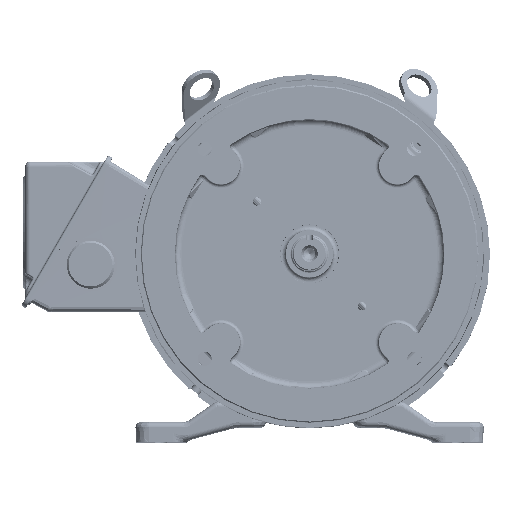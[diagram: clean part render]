
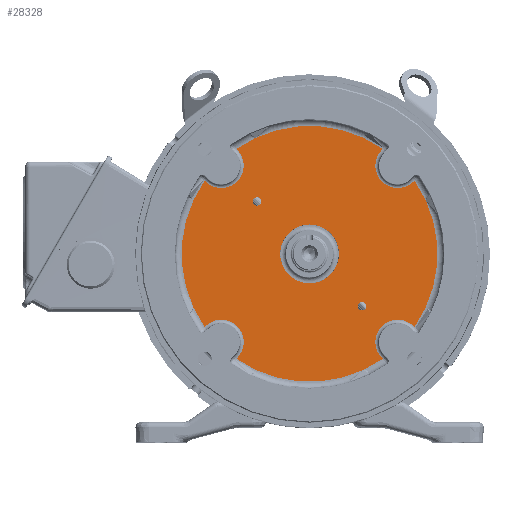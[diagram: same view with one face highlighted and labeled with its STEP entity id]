
A CAD part, top view. The second image highlights one B-rep face of the part: STEP entity #28328.
In plain terms, the highlighted planar face has unit normal (0, 0, 1) as drawn and (0, 0, -1) by its records, which use the part's own axes.
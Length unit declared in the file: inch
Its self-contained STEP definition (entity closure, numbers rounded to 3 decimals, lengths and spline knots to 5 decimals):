
#16629=CARTESIAN_POINT('',(-2.71564,-3.88906,
-0.59));
#16636=CARTESIAN_POINT('',(0.,0.,-0.59));
#16637=DIRECTION('',(0.,0.,-1.));
#16638=DIRECTION('',(0.82,0.573,0.));
#16639=AXIS2_PLACEMENT_3D('',#16636,#16637,#16638);
#16641=CARTESIAN_POINT('',(0.,0.,-0.59));
#16642=DIRECTION('',(0.,0.,-1.));
#16643=DIRECTION('',(0.573,-0.82,0.));
#16644=AXIS2_PLACEMENT_3D('',#16641,#16642,#16643);
#16651=CARTESIAN_POINT('',(0.,0.,-0.59));
#16652=DIRECTION('',(0.,0.,-1.));
#16653=DIRECTION('',(-0.82,-0.573,0.));
#16654=AXIS2_PLACEMENT_3D('',#16651,#16652,#16653);
#16666=CARTESIAN_POINT('',(0.,0.,-0.59));
#16667=DIRECTION('',(0.,0.,-1.));
#16668=DIRECTION('',(-0.573,0.82,0.));
#16669=AXIS2_PLACEMENT_3D('',#16666,#16667,#16668);
#16694=CARTESIAN_POINT('',(3.88906,-2.71564,
-0.59));
#16734=DIRECTION('',(-0.707,0.707,0.));
#16735=VECTOR('',#16734,0.04523);
#16736=CARTESIAN_POINT('',(3.88906,-2.71564,
-0.59));
#16737=LINE('',#16736,#16735);
#16738=CARTESIAN_POINT('',(0.,0.,-0.59));
#16739=DIRECTION('',(0.,0.,1.));
#16740=DIRECTION('',(0.,1.,0.));
#16741=AXIS2_PLACEMENT_3D('',#16738,#16739,#16740);
#16743=CARTESIAN_POINT('',(0.,0.,-0.59));
#16744=DIRECTION('',(0.,0.,1.));
#16745=DIRECTION('',(0.,-1.,0.));
#16746=AXIS2_PLACEMENT_3D('',#16743,#16744,#16745);
#16748=CARTESIAN_POINT('',(1.94454,1.94454,-0.59));
#16749=DIRECTION('',(0.,0.,-1.));
#16750=DIRECTION('',(-1.,0.,0.));
#16751=AXIS2_PLACEMENT_3D('',#16748,#16749,#16750);
#16753=CARTESIAN_POINT('',(1.94454,1.94454,-0.59));
#16754=DIRECTION('',(0.,0.,-1.));
#16755=DIRECTION('',(1.,0.,0.));
#16756=AXIS2_PLACEMENT_3D('',#16753,#16754,#16755);
#16758=CARTESIAN_POINT('',(-1.94454,-1.94454,-0.59));
#16759=DIRECTION('',(0.,0.,-1.));
#16760=DIRECTION('',(-1.,0.,0.));
#16761=AXIS2_PLACEMENT_3D('',#16758,#16759,#16760);
#16763=CARTESIAN_POINT('',(-1.94454,-1.94454,-0.59));
#16764=DIRECTION('',(0.,0.,-1.));
#16765=DIRECTION('',(1.,0.,0.));
#16766=AXIS2_PLACEMENT_3D('',#16763,#16764,#16765);
#16777=DIRECTION('',(0.707,0.707,0.));
#16778=VECTOR('',#16777,0.04523);
#16779=CARTESIAN_POINT('',(3.85708,2.68366,-0.59));
#16780=LINE('',#16779,#16778);
#16841=CARTESIAN_POINT('',(2.71564,3.88906,
-0.59));
#16852=DIRECTION('',(-0.707,-0.707,0.));
#16853=VECTOR('',#16852,0.04523);
#16854=CARTESIAN_POINT('',(2.71564,3.88906,
-0.59));
#16855=LINE('',#16854,#16853);
#16866=CARTESIAN_POINT('',(3.27037,3.27037,
-0.59));
#16867=DIRECTION('',(0.,0.,1.));
#16868=DIRECTION('',(-0.707,0.707,0.));
#16869=AXIS2_PLACEMENT_3D('',#16866,#16867,#16868);
#16931=DIRECTION('',(-0.707,0.707,0.));
#16932=VECTOR('',#16931,0.04523);
#16933=CARTESIAN_POINT('',(-2.68366,3.85708,-0.59));
#16934=LINE('',#16933,#16932);
#16995=CARTESIAN_POINT('',(-3.88906,2.71564,
-0.59));
#17006=DIRECTION('',(0.707,-0.707,0.));
#17007=VECTOR('',#17006,0.04523);
#17008=CARTESIAN_POINT('',(-3.88906,2.71564,
-0.59));
#17009=LINE('',#17008,#17007);
#17020=CARTESIAN_POINT('',(-3.27037,3.27037,
-0.59));
#17021=DIRECTION('',(0.,0.,1.));
#17022=DIRECTION('',(-0.707,-0.707,0.));
#17023=AXIS2_PLACEMENT_3D('',#17020,#17021,#17022);
#17085=DIRECTION('',(-0.707,-0.707,0.));
#17086=VECTOR('',#17085,0.04523);
#17087=CARTESIAN_POINT('',(-3.85708,-2.68366,-0.59));
#17088=LINE('',#17087,#17086);
#17099=CARTESIAN_POINT('',(-3.27037,-3.27037,
-0.59));
#17100=DIRECTION('',(0.,0.,1.));
#17101=DIRECTION('',(0.707,-0.707,0.));
#17102=AXIS2_PLACEMENT_3D('',#17099,#17100,#17101);
#17113=DIRECTION('',(0.707,0.707,0.));
#17114=VECTOR('',#17113,0.04523);
#17115=CARTESIAN_POINT('',(-2.71564,-3.88906,
-0.59));
#17116=LINE('',#17115,#17114);
#17151=DIRECTION('',(0.707,-0.707,0.));
#17152=VECTOR('',#17151,0.04523);
#17153=CARTESIAN_POINT('',(2.68366,-3.85708,-0.59));
#17154=LINE('',#17153,#17152);
#17173=CARTESIAN_POINT('',(3.27037,-3.27037,
-0.59));
#17174=DIRECTION('',(0.,0.,1.));
#17175=DIRECTION('',(0.707,0.707,0.));
#17176=AXIS2_PLACEMENT_3D('',#17173,#17174,#17175);
#22875=VERTEX_POINT('',#16694);
#22878=CARTESIAN_POINT('',(3.85708,-2.68366,-0.59));
#22879=VERTEX_POINT('',#22878);
#22882=CARTESIAN_POINT('',(2.68366,-3.85708,
-0.59));
#22883=VERTEX_POINT('',#22882);
#22886=CARTESIAN_POINT('',(2.71564,-3.88906,-0.59));
#22887=VERTEX_POINT('',#22886);
#22893=VERTEX_POINT('',#16629);
#22896=CARTESIAN_POINT('',(-2.68366,-3.85708,-0.59));
#22897=VERTEX_POINT('',#22896);
#22900=CARTESIAN_POINT('',(-3.85708,-2.68366,
-0.59));
#22901=VERTEX_POINT('',#22900);
#22904=CARTESIAN_POINT('',(-3.88906,-2.71564,
-0.59));
#22905=VERTEX_POINT('',#22904);
#22911=VERTEX_POINT('',#16841);
#22914=CARTESIAN_POINT('',(2.68366,3.85708,-0.59));
#22915=VERTEX_POINT('',#22914);
#22918=CARTESIAN_POINT('',(3.85708,2.68366,
-0.59));
#22919=VERTEX_POINT('',#22918);
#22922=CARTESIAN_POINT('',(3.88906,2.71564,-0.59));
#22923=VERTEX_POINT('',#22922);
#22929=VERTEX_POINT('',#16995);
#22932=CARTESIAN_POINT('',(-3.85708,2.68366,-0.59));
#22933=VERTEX_POINT('',#22932);
#22936=CARTESIAN_POINT('',(-2.68366,3.85708,
-0.59));
#22937=VERTEX_POINT('',#22936);
#22940=CARTESIAN_POINT('',(-2.71564,3.88906,-0.59));
#22941=VERTEX_POINT('',#22940);
#23389=CARTESIAN_POINT('',(0.,1.0895,-0.59));
#23390=CARTESIAN_POINT('',(0.,-1.0895,-0.59));
#23391=VERTEX_POINT('',#23389);
#23392=VERTEX_POINT('',#23390);
#23512=CARTESIAN_POINT('',(1.78804,1.94454,-0.59));
#23513=CARTESIAN_POINT('',(2.10104,1.94454,-0.59));
#23514=VERTEX_POINT('',#23512);
#23515=VERTEX_POINT('',#23513);
#23520=CARTESIAN_POINT('',(-2.10104,-1.94454,-0.59));
#23521=CARTESIAN_POINT('',(-1.78804,-1.94454,-0.59));
#23522=VERTEX_POINT('',#23520);
#23523=VERTEX_POINT('',#23521);
#28276=CARTESIAN_POINT('',(0.,0.,-0.59));
#28277=DIRECTION('',(0.,0.,1.));
#28278=DIRECTION('',(0.,1.,0.));
#28279=AXIS2_PLACEMENT_3D('',#28276,#28277,#28278);
#28280=PLANE('',#28279);
#28281=ORIENTED_EDGE('',*,*,#28269,.F.);
#28282=ORIENTED_EDGE('',*,*,#28122,.F.);
#28284=ORIENTED_EDGE('',*,*,#28283,.F.);
#28286=ORIENTED_EDGE('',*,*,#28285,.F.);
#28288=ORIENTED_EDGE('',*,*,#28287,.F.);
#28289=ORIENTED_EDGE('',*,*,#28166,.F.);
#28291=ORIENTED_EDGE('',*,*,#28290,.F.);
#28293=ORIENTED_EDGE('',*,*,#28292,.F.);
#28295=ORIENTED_EDGE('',*,*,#28294,.F.);
#28296=ORIENTED_EDGE('',*,*,#28148,.F.);
#28298=ORIENTED_EDGE('',*,*,#28297,.F.);
#28300=ORIENTED_EDGE('',*,*,#28299,.F.);
#28302=ORIENTED_EDGE('',*,*,#28301,.F.);
#28303=ORIENTED_EDGE('',*,*,#28134,.F.);
#28305=ORIENTED_EDGE('',*,*,#28304,.F.);
#28307=ORIENTED_EDGE('',*,*,#28306,.F.);
#28308=EDGE_LOOP('',(#28281,#28282,#28284,#28286,#28288,#28289,#28291,#28293,
#28295,#28296,#28298,#28300,#28302,#28303,#28305,#28307));
#28309=FACE_OUTER_BOUND('',#28308,.F.);
#28311=ORIENTED_EDGE('',*,*,#28310,.F.);
#28313=ORIENTED_EDGE('',*,*,#28312,.F.);
#28314=EDGE_LOOP('',(#28311,#28313));
#28315=FACE_BOUND('',#28314,.F.);
#28317=ORIENTED_EDGE('',*,*,#28316,.T.);
#28319=ORIENTED_EDGE('',*,*,#28318,.T.);
#28320=EDGE_LOOP('',(#28317,#28319));
#28321=FACE_BOUND('',#28320,.F.);
#28323=ORIENTED_EDGE('',*,*,#28322,.T.);
#28325=ORIENTED_EDGE('',*,*,#28324,.T.);
#28326=EDGE_LOOP('',(#28323,#28325));
#28327=FACE_BOUND('',#28326,.F.);
#28328=ADVANCED_FACE('',(#28309,#28315,#28321,#28327),#28280,.F.);
#16640=CIRCLE('',#16639,4.74337);
#16645=CIRCLE('',#16644,4.74337);
#16655=CIRCLE('',#16654,4.74337);
#16670=CIRCLE('',#16669,4.74337);
#16742=CIRCLE('',#16741,1.0895);
#16747=CIRCLE('',#16746,1.0895);
#16752=CIRCLE('',#16751,0.1565);
#16757=CIRCLE('',#16756,0.1565);
#16762=CIRCLE('',#16761,0.1565);
#16767=CIRCLE('',#16766,0.1565);
#16870=CIRCLE('',#16869,0.82973);
#17024=CIRCLE('',#17023,0.82973);
#17103=CIRCLE('',#17102,0.82973);
#17177=CIRCLE('',#17176,0.82973);
#28122=EDGE_CURVE('',#22923,#22875,#16640,.T.);
#28134=EDGE_CURVE('',#22887,#22893,#16645,.T.);
#28148=EDGE_CURVE('',#22905,#22929,#16655,.T.);
#28166=EDGE_CURVE('',#22941,#22911,#16670,.T.);
#28269=EDGE_CURVE('',#22875,#22879,#16737,.T.);
#28283=EDGE_CURVE('',#22919,#22923,#16780,.T.);
#28285=EDGE_CURVE('',#22915,#22919,#16870,.T.);
#28287=EDGE_CURVE('',#22911,#22915,#16855,.T.);
#28290=EDGE_CURVE('',#22937,#22941,#16934,.T.);
#28292=EDGE_CURVE('',#22933,#22937,#17024,.T.);
#28294=EDGE_CURVE('',#22929,#22933,#17009,.T.);
#28297=EDGE_CURVE('',#22901,#22905,#17088,.T.);
#28299=EDGE_CURVE('',#22897,#22901,#17103,.T.);
#28301=EDGE_CURVE('',#22893,#22897,#17116,.T.);
#28304=EDGE_CURVE('',#22883,#22887,#17154,.T.);
#28306=EDGE_CURVE('',#22879,#22883,#17177,.T.);
#28310=EDGE_CURVE('',#23391,#23392,#16742,.T.);
#28312=EDGE_CURVE('',#23392,#23391,#16747,.T.);
#28316=EDGE_CURVE('',#23514,#23515,#16752,.T.);
#28318=EDGE_CURVE('',#23515,#23514,#16757,.T.);
#28322=EDGE_CURVE('',#23522,#23523,#16762,.T.);
#28324=EDGE_CURVE('',#23523,#23522,#16767,.T.);
